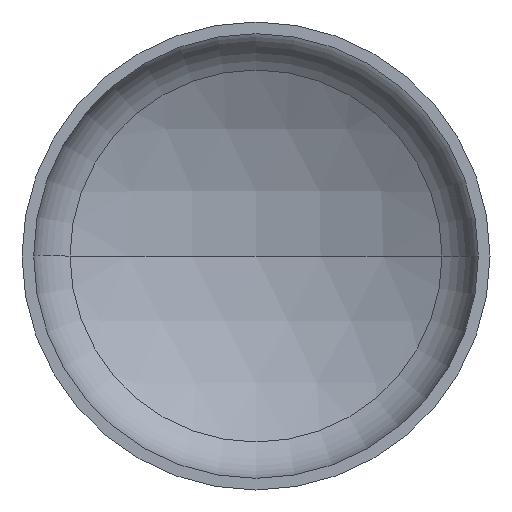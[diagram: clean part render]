
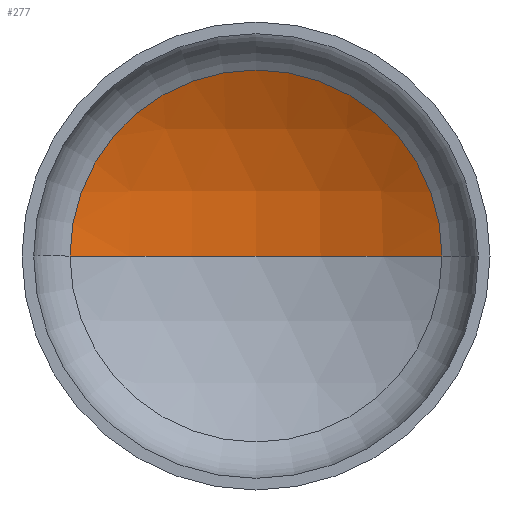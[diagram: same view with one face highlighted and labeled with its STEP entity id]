
A CAD part, front view. The second image highlights one B-rep face of the part: STEP entity #277.
In plain terms, the highlighted spherical face has radius 3600 mm.
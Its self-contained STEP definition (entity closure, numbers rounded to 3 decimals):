
#12 = AXIS2_PLACEMENT_3D ( 'NONE', #385, #70, #391 ) ;
#16 = EDGE_LOOP ( 'NONE', ( #73, #30, #64 ) ) ;
#18 = AXIS2_PLACEMENT_3D ( 'NONE', #246, #265, #76 ) ;
#22 = AXIS2_PLACEMENT_3D ( 'NONE', #172, #339, #192 ) ;
#23 = AXIS2_PLACEMENT_3D ( 'NONE', #299, #298, #233 ) ;
#30 = ORIENTED_EDGE ( 'NONE', *, *, #83, .T. ) ;
#47 = VERTEX_POINT ( 'NONE', #362 ) ;
#58 = EDGE_CURVE ( 'NONE', #279, #125, #121, .T. ) ;
#64 = ORIENTED_EDGE ( 'NONE', *, *, #58, .T. ) ;
#70 = DIRECTION ( 'NONE',  ( 0., 0., -1. ) ) ;
#73 = ORIENTED_EDGE ( 'NONE', *, *, #118, .F. ) ;
#76 = DIRECTION ( 'NONE',  ( 1., 0., 0. ) ) ;
#83 = EDGE_CURVE ( 'NONE', #47, #279, #104, .T. ) ;
#104 = CIRCLE ( 'NONE', #22, 3600. ) ;
#118 = EDGE_CURVE ( 'NONE', #47, #125, #256, .T. ) ;
#121 = CIRCLE ( 'NONE', #23, 1788.227 ) ;
#125 = VERTEX_POINT ( 'NONE', #406 ) ;
#172 = CARTESIAN_POINT ( 'NONE',  ( 0., -2446.265, 0. ) ) ;
#192 = DIRECTION ( 'NONE',  ( -1., 0., 0. ) ) ;
#233 = DIRECTION ( 'NONE',  ( 1., 0., 0. ) ) ;
#245 = FACE_OUTER_BOUND ( 'NONE', #16, .T. ) ;
#246 = CARTESIAN_POINT ( 'NONE',  ( 0., -2446.265, 0. ) ) ;
#256 = CIRCLE ( 'NONE', #18, 3600. ) ;
#265 = DIRECTION ( 'NONE',  ( 0., 0., 1. ) ) ;
#277 = ADVANCED_FACE ( 'NONE', ( #245 ), #296, .F. ) ;
#279 = VERTEX_POINT ( 'NONE', #393 ) ;
#296 = SPHERICAL_SURFACE ( 'NONE', #12, 3600. ) ;
#298 = DIRECTION ( 'NONE',  ( 0., -1., 0. ) ) ;
#299 = CARTESIAN_POINT ( 'NONE',  ( 0., 678.194, 0. ) ) ;
#339 = DIRECTION ( 'NONE',  ( 0., 0., -1. ) ) ;
#362 = CARTESIAN_POINT ( 'NONE',  ( 0., 1153.735, 0. ) ) ;
#385 = CARTESIAN_POINT ( 'NONE',  ( 0., -2446.265, 0. ) ) ;
#391 = DIRECTION ( 'NONE',  ( -1., 0., 0. ) ) ;
#393 = CARTESIAN_POINT ( 'NONE',  ( 1788.227, 678.194, 0. ) ) ;
#406 = CARTESIAN_POINT ( 'NONE',  ( -1788.227, 678.194, 0. ) ) ;
